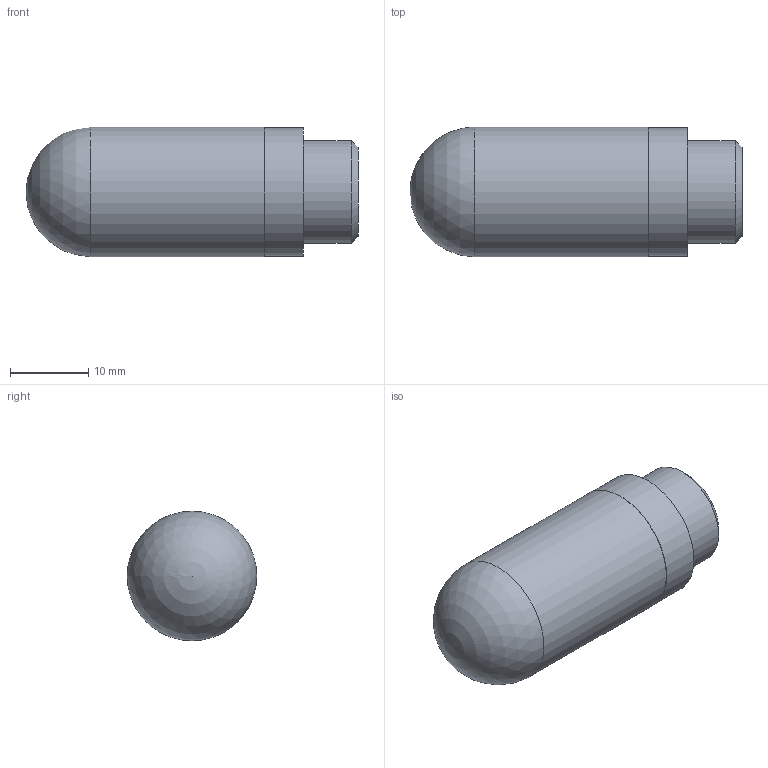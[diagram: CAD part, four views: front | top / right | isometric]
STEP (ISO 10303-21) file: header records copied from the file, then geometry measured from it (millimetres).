
FILE_DESCRIPTION(/* description */ ('STEP AP203'),/* implementation_level */ '2;1');
FILE_NAME(/* name */ '2928 1_4',/* time_stamp */ '2023-04-06T15:02:47+02:00',/* author */ ('License CC BY-ND 4.0'),/* organization */ ('CADENAS'),/* preprocessor_version */ 'ST-DEVELOPER v19.3',/* originating_system */ 'PARTsolutions',/* authorisation */ ' ');
FILE_SCHEMA (('CONFIG_CONTROL_DESIGN'));
Length unit declared in the file: millimetre
Products named in the file (1): 2928 1/4
Bounding box: 42.5 x 16.6 x 16.6 mm (x, y, z)
Volume: 8008.5 mm3; surface area: 2333.9 mm2
Topology: 1 solids, 1 shells, 8 faces, 13 edges, 8 vertices
Faces by surface type: cylinder 3, plane 3, sphere 1, cone 1
Full cylindrical faces by diameter (mm): 13.157 x1, 16.5 x1, 16.6 x1
Entity records: 184 total; most frequent: DIRECTION 32, CARTESIAN_POINT 23, AXIS2_PLACEMENT_3D 16, ORIENTED_EDGE 14, EDGE_LOOP 14, FACE_BOUND 14, ADVANCED_FACE 8, EDGE_CURVE 7
